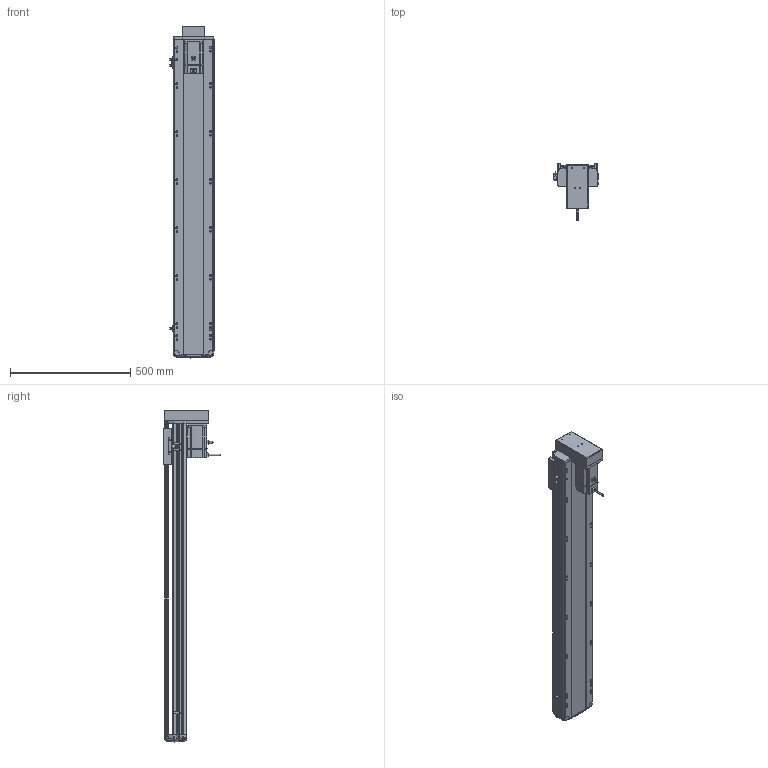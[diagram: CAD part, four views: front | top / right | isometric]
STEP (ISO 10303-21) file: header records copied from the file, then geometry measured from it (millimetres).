
FILE_DESCRIPTION (( 'STEP AP214' ), '1' );
FILE_NAME ('RTH17-XX-1100-M-M75-C4.STEP', '2025-10-24T10:27:29', ( '' ), ( '' ), 'SwSTEP 2.0', 'SolidWorks 2018', '' );
FILE_SCHEMA (( 'AUTOMOTIVE_DESIGN' ));
Length unit declared in the file: millimetre
Products named in the file (10): N_RTH17-M-018盖子^RTH17-XX-XX-M-M75-C4（方程式）; N_RTH17-M-008-P75电机安装板下折750W^RTH17-XX-XX-M-M75-C4（方程式）; N_RTH-BL-012 感应片(外置)^RTH17-XX-XX-M-M75-C4（方程式）; RTH17-XX-1100-M-M75-C4; N_M75^RTH17-XX-XX-M-M75-C4（方程式）; N_RTH17-GY-001P^RTH17-XX-XX-M-M75-C4（方程式）; N_RTH17-E-004丝杆螺母连接座^RTH17-XX-XX-M-M75-C4（方程式）; N_OMRON EE-SX672 換覜ん^RTH17-XX-XX-M-M75-C4ㄗ源最宒ㄘ; N_RTH17-M-011底座^RTH17-XX-XX-M-M75-C4（方程式）; N_RTH17-M-007上盖^RTH17-XX-XX-M-M75-C4（方程式）
Assembly tree (11 placements, depth 2):
  RTH17-XX-1100-M-M75-C4
    N_RTH17-M-011底座^RTH17-XX-XX-M-M75-C4（方程式）
    N_RTH17-M-007上盖^RTH17-XX-XX-M-M75-C4（方程式）
    N_M75^RTH17-XX-XX-M-M75-C4（方程式）
    N_OMRON EE-SX672 換覜ん^RTH17-XX-XX-M-M75-C4ㄗ源最宒ㄘ  x3
    N_RTH-BL-012 感应片(外置)^RTH17-XX-XX-M-M75-C4（方程式）
    N_RTH17-M-008-P75电机安装板下折750W^RTH17-XX-XX-M-M75-C4（方程式）
    N_RTH17-M-018盖子^RTH17-XX-XX-M-M75-C4（方程式）
    N_RTH17-E-004丝杆螺母连接座^RTH17-XX-XX-M-M75-C4（方程式）
    N_RTH17-GY-001P^RTH17-XX-XX-M-M75-C4（方程式）
Bounding box: 183.5 x 240.7 x 1383.19 mm (x, y, z)
Volume: 10962228.3 mm3; surface area: 1499165.1 mm2
Topology: 10 solids, 12 shells, 1789 faces, 4958 edges, 3212 vertices
Faces by surface type: plane 834, cylinder 541, bspline 377, cone 28, torus 9
Entity records: 52827 total; most frequent: CARTESIAN_POINT 21028, ORIENTED_EDGE 6940, DIRECTION 5764, EDGE_CURVE 3474, VERTEX_POINT 2248, AXIS2_PLACEMENT_3D 1951, VECTOR 1862, LINE 1862
